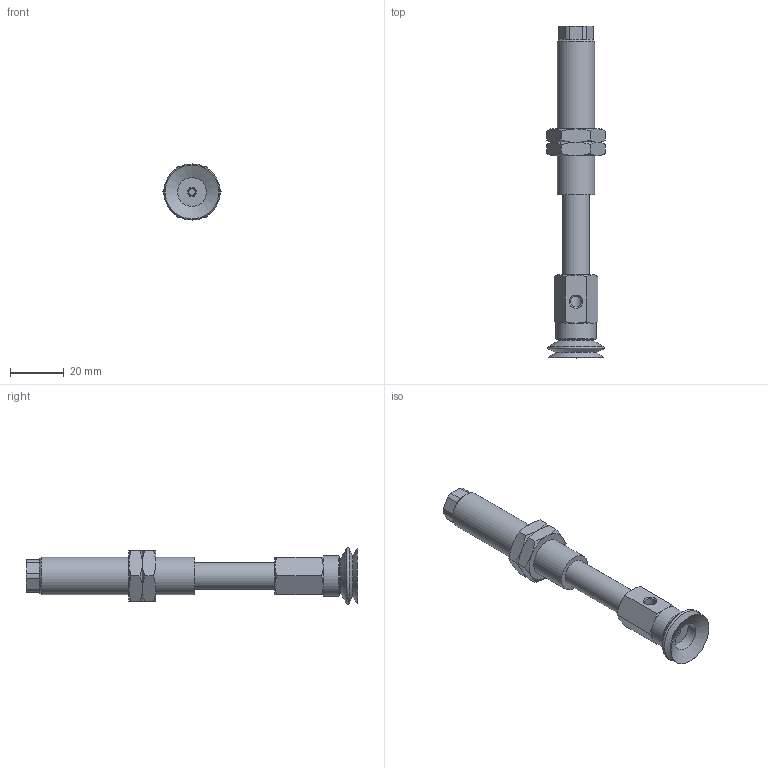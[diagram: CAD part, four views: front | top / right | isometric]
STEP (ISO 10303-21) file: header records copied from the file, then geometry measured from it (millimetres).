
FILE_DESCRIPTION(('STEP AP203'),'1');
FILE_NAME('.stp','2025-04-24T01:30:58',(' '),(' '),'Spatial InterOp 3D',' ',' ');
FILE_SCHEMA(('CONFIG_CONTROL_DESIGN'));
Length unit declared in the file: millimetre
Products named in the file (7): BNABPJYS-20-30-※; Adapter-20-NAPJ; CONNECTOR_S-20-30; NUT-NAPJ-20-30-s; NAPJTS-20-30-FBODY; NAPJTS-20-30-MBODY; BPJG-20-※
Assembly tree (7 placements, depth 2):
  BNABPJYS-20-30-※
    Adapter-20-NAPJ
    CONNECTOR_S-20-30
    NUT-NAPJ-20-30-s  x2
    NAPJTS-20-30-FBODY
    NAPJTS-20-30-MBODY
    BPJG-20-※
Bounding box: 21.94 x 124 x 21 mm (x, y, z)
Volume: 17740.5 mm3; surface area: 13904.2 mm2
Topology: 7 solids, 7 shells, 143 faces, 310 edges, 189 vertices
Faces by surface type: plane 60, cone 54, cylinder 22, torus 7
Full cylindrical faces by diameter (mm): 2.5 x1, 3 x1, 4.134 x3, 4.6 x1, 5 x2, 10 x2, 10.8 x1, 11 x1, 13.188 x2, 14 x1, 15 x1
Entity records: 3646 total; most frequent: CARTESIAN_POINT 866, DIRECTION 514, ORIENTED_EDGE 436, AXIS2_PLACEMENT_3D 220, EDGE_CURVE 218, EDGE_LOOP 176, VERTEX_POINT 154, FACE_OUTER_BOUND 142
